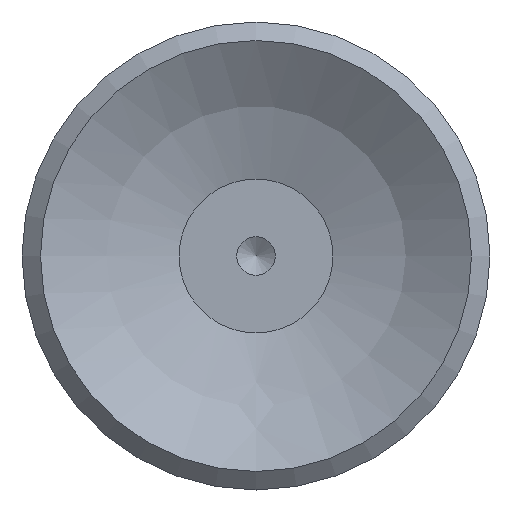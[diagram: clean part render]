
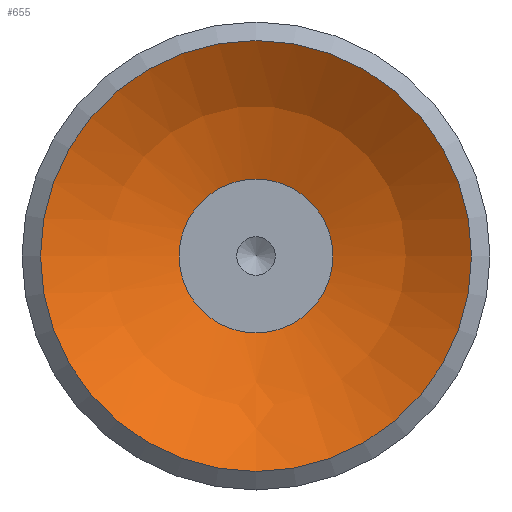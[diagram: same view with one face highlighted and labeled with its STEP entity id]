
A CAD part, front view. The second image highlights one B-rep face of the part: STEP entity #655.
In plain terms, the highlighted spherical face has radius 11.5 mm.
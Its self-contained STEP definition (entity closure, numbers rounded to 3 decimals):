
#655=ADVANCED_FACE('',(#1079,#1080),#1081,.F.);
#1079=FACE_OUTER_BOUND('',#1620,.T.);
#1080=FACE_OUTER_BOUND('',#1621,.T.);
#1081=SPHERICAL_SURFACE('',#1622,11.5);
#1620=EDGE_LOOP('',(#2824));
#1621=EDGE_LOOP('',(#2825));
#1622=AXIS2_PLACEMENT_3D('',#2826,#2827,#2828);
#2824=ORIENTED_EDGE('',*,*,#3712,.T.);
#2825=ORIENTED_EDGE('',*,*,#3683,.F.);
#2826=CARTESIAN_POINT('',(0.001,9.494,-22.735));
#2827=DIRECTION('',(0.0,0.,-1.0));
#2828=DIRECTION('',(1.0,0.0,0.0));
#3683=EDGE_CURVE('',#4347,#4347,#4348,.T.);
#3712=EDGE_CURVE('',#4400,#4400,#4401,.T.);
#4347=VERTEX_POINT('',#6164);
#4348=CIRCLE('',#6165,2.5);
#4400=VERTEX_POINT('',#6217);
#4401=CIRCLE('',#6218,7.0);
#6164=CARTESIAN_POINT('',(0.001,11.994,-11.51));
#6165=AXIS2_PLACEMENT_3D('',#6832,#6833,#6834);
#6217=CARTESIAN_POINT('',(0.001,16.494,-13.611));
#6218=AXIS2_PLACEMENT_3D('',#6919,#6920,#6921);
#6832=CARTESIAN_POINT('',(0.001,9.494,-11.51));
#6833=DIRECTION('',(0.0,0.,-1.0));
#6834=DIRECTION('',(0.0,1.0,0.));
#6919=CARTESIAN_POINT('',(0.001,9.494,-13.611));
#6920=DIRECTION('',(0.0,0.,-1.0));
#6921=DIRECTION('',(0.0,1.0,0.));
